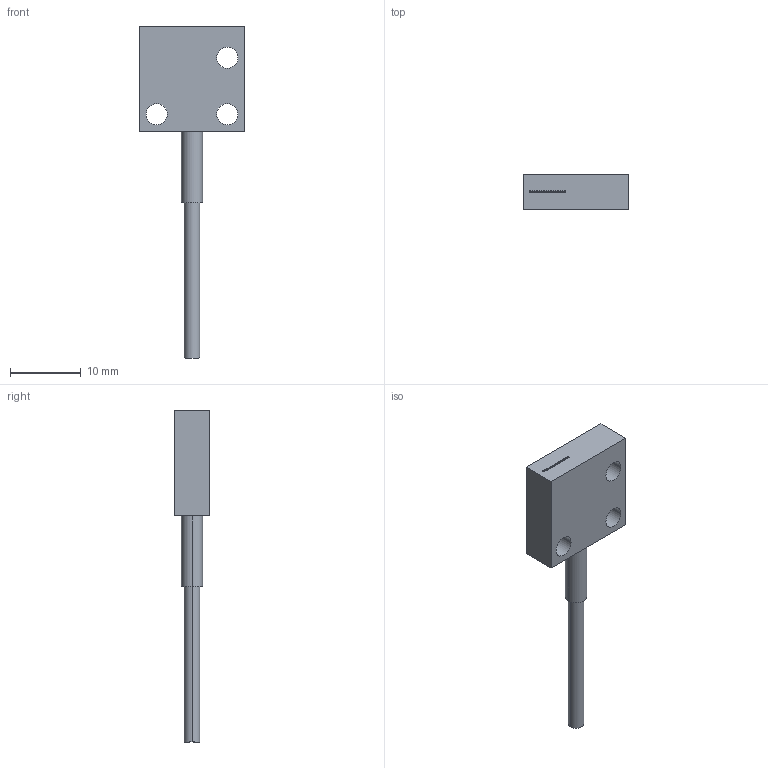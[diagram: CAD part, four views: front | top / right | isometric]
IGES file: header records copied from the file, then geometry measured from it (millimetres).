
Start section: SolidWorks IGES FILE using analytic representation for surfaces
Global section: file name: \\Intra-srv04\開発データ\CAD_Data\CAD委員会\3D電子ｶﾀﾛｸﾞ\製品カタログ（新）\0_IGES\FT-AFM2.IGS,41HSolidWorks 2004; native system: by SolidWorks Corporation; preprocessor: Version 5.3; author: YK0651; date: 050909.001013; units: millimetre
Bounding box: 15 x 5 x 47 mm (x, y, z)
Volume: 1173.2 mm3; surface area: 1096.6 mm2
Topology: 1 solids, 1 shells, 66 faces, 138 edges, 92 vertices
Faces by surface type: revolution 42, plane 24
